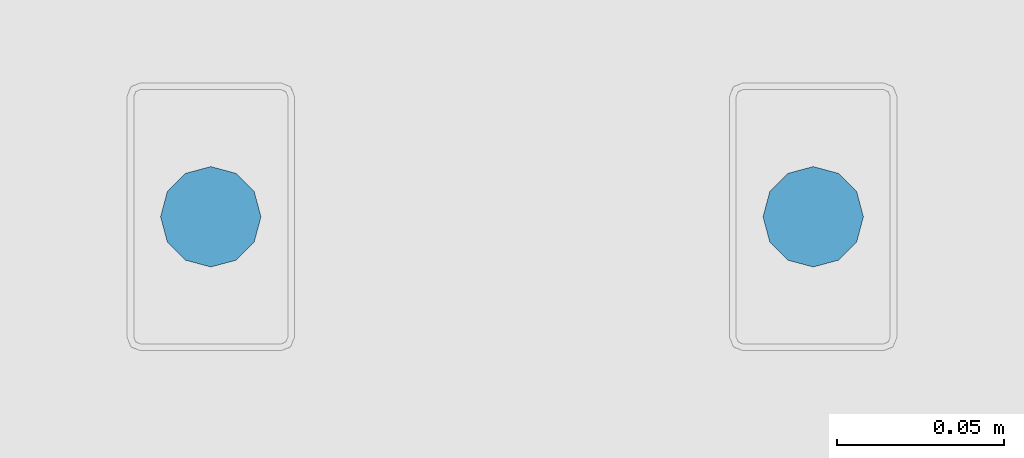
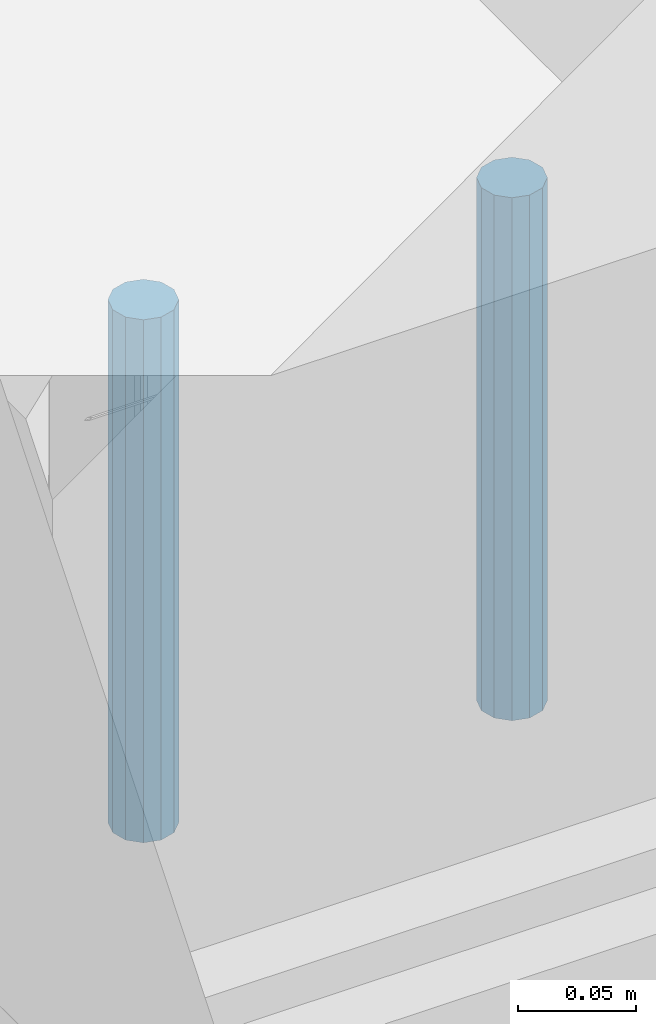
# One storey, part 204 of 230: 2 beams.
"""IFC4X3_ADD2 building model written with IfcOpenShell, lengths in millimetres."""

from ifc_helpers import new_model, si_unit, direction, origin_with_axes, place, context, subcontext, project, spatial, polygons, element, save


model = new_model("IFC4X3_ADD2")

# Units and contexts
model_context = context("Model", 3, precision=1e-05, world=origin_with_axes(), true_north=direction((0.0, 1.0)))
body_context = subcontext(model_context, "Body", "Model", "MODEL_VIEW")
ifc_project = project(units=[si_unit("LENGTHUNIT", "METRE", prefix="MILLI"), si_unit("AREAUNIT", "SQUARE_METRE"), si_unit("VOLUMEUNIT", "CUBIC_METRE"), si_unit("PLANEANGLEUNIT", "RADIAN"), si_unit("TIMEUNIT", "SECOND"), si_unit("MASSUNIT", "GRAM")], contexts=[model_context])

# Site, building, storey
site_placement = place(None, origin_with_axes())
site = spatial("IfcSite", under=ifc_project, at=site_placement, Name="Site", CompositionType="ELEMENT")
building_placement = place(site_placement, origin_with_axes())
building = spatial("IfcBuilding", under=site, at=building_placement, Name="IFC Building Story")
storey_placement = place(building_placement, origin_with_axes())
storey = spatial("IfcBuildingStorey", under=building, at=storey_placement, Name="ETAGE 00 (0)", Elevation=0.0)

# Beams
beam_1_placement = place(storey_placement, origin_with_axes())
element("IfcBeam", 1, at=beam_1_placement, inside=storey, Name="SD11", ObjectType="D30", context=body_context, shape_type="Tessellation", body=[
    polygons([(33296.1883991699, 21939.9996109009, 3960.0), (33296.1883991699, 21939.9996109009, 3690.0), (33298.19801811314, 21932.4996109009, 3690.0), (33298.19801811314, 21932.4996109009, 3960.0), (33303.68839916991, 21927.00922984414, 3690.0), (33303.68839916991, 21927.00922984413, 3960.0), (33311.1883991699, 21924.9996109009, 3690.0), (33311.1883991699, 21924.9996109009, 3960.0), (33318.6883991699, 21927.00922984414, 3690.0), (33318.6883991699, 21927.00922984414, 3960.0), (33324.17878022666, 21932.4996109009, 3690.0), (33324.17878022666, 21932.4996109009, 3960.0), (33326.1883991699, 21939.9996109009, 3690.0), (33326.1883991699, 21939.9996109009, 3960.0), (33324.17878022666, 21947.49961090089, 3690.0), (33324.17878022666, 21947.49961090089, 3960.0), (33318.6883991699, 21952.98999195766, 3690.0), (33318.6883991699, 21952.98999195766, 3960.0), (33311.1883991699, 21954.9996109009, 3690.0), (33311.1883991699, 21954.9996109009, 3960.0), (33303.68839916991, 21952.98999195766, 3690.0), (33303.68839916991, 21952.98999195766, 3960.0), (33298.19801811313, 21947.49961090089, 3690.0), (33298.19801811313, 21947.49961090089, 3960.0)], [[[1, 2, 3, 4]], [[4, 3, 5, 6]], [[6, 5, 7, 8]], [[8, 7, 9, 10]], [[10, 9, 11, 12]], [[12, 11, 13, 14]], [[14, 13, 15, 16]], [[16, 15, 17, 18]], [[18, 17, 19, 20]], [[20, 19, 21, 22]], [[22, 21, 23, 24]], [[24, 23, 2, 1]], [[4, 6, 8]], [[4, 8, 10]], [[4, 10, 12]], [[4, 12, 14]], [[4, 14, 16]], [[4, 16, 18]], [[4, 18, 20]], [[4, 20, 22]], [[4, 22, 24]], [[4, 24, 1]], [[2, 23, 21]], [[2, 21, 19]], [[2, 19, 17]], [[2, 17, 15]], [[2, 15, 13]], [[2, 13, 11]], [[2, 11, 9]], [[2, 9, 7]], [[2, 7, 5]], [[2, 5, 3]]]),
])
beam_2_placement = place(storey_placement, origin_with_axes())
element("IfcBeam", 2, at=beam_2_placement, inside=storey, Name="SD11", ObjectType="D30", context=body_context, shape_type="Tessellation", body=[
    polygons([(33476.1883991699, 21939.9996109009, 3960.0), (33476.1883991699, 21939.9996109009, 3690.0), (33478.19801811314, 21932.4996109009, 3690.0), (33478.19801811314, 21932.4996109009, 3960.0), (33483.68839916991, 21927.00922984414, 3690.0), (33483.68839916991, 21927.00922984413, 3960.0), (33491.1883991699, 21924.9996109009, 3690.0), (33491.1883991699, 21924.9996109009, 3960.0), (33498.68839916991, 21927.00922984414, 3690.0), (33498.68839916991, 21927.00922984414, 3960.0), (33504.17878022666, 21932.4996109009, 3690.0), (33504.17878022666, 21932.4996109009, 3960.0), (33506.1883991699, 21939.9996109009, 3690.0), (33506.1883991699, 21939.9996109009, 3960.0), (33504.17878022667, 21947.49961090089, 3690.0), (33504.17878022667, 21947.49961090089, 3960.0), (33498.68839916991, 21952.98999195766, 3690.0), (33498.68839916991, 21952.98999195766, 3960.0), (33491.1883991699, 21954.9996109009, 3690.0), (33491.1883991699, 21954.9996109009, 3960.0), (33483.68839916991, 21952.98999195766, 3690.0), (33483.68839916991, 21952.98999195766, 3960.0), (33478.19801811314, 21947.49961090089, 3690.0), (33478.19801811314, 21947.4996109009, 3960.0)], [[[1, 2, 3, 4]], [[4, 3, 5, 6]], [[6, 5, 7, 8]], [[8, 7, 9, 10]], [[10, 9, 11, 12]], [[12, 11, 13, 14]], [[14, 13, 15, 16]], [[16, 15, 17, 18]], [[18, 17, 19, 20]], [[20, 19, 21, 22]], [[22, 21, 23, 24]], [[24, 23, 2, 1]], [[4, 6, 8]], [[4, 8, 10]], [[4, 10, 12]], [[4, 12, 14]], [[4, 14, 16]], [[4, 16, 18]], [[4, 18, 20]], [[4, 20, 22]], [[4, 22, 24]], [[4, 24, 1]], [[2, 23, 21]], [[2, 21, 19]], [[2, 19, 17]], [[2, 17, 15]], [[2, 15, 13]], [[2, 13, 11]], [[2, 11, 9]], [[2, 9, 7]], [[2, 7, 5]], [[2, 5, 3]]]),
])

save(model, "model.ifc")
